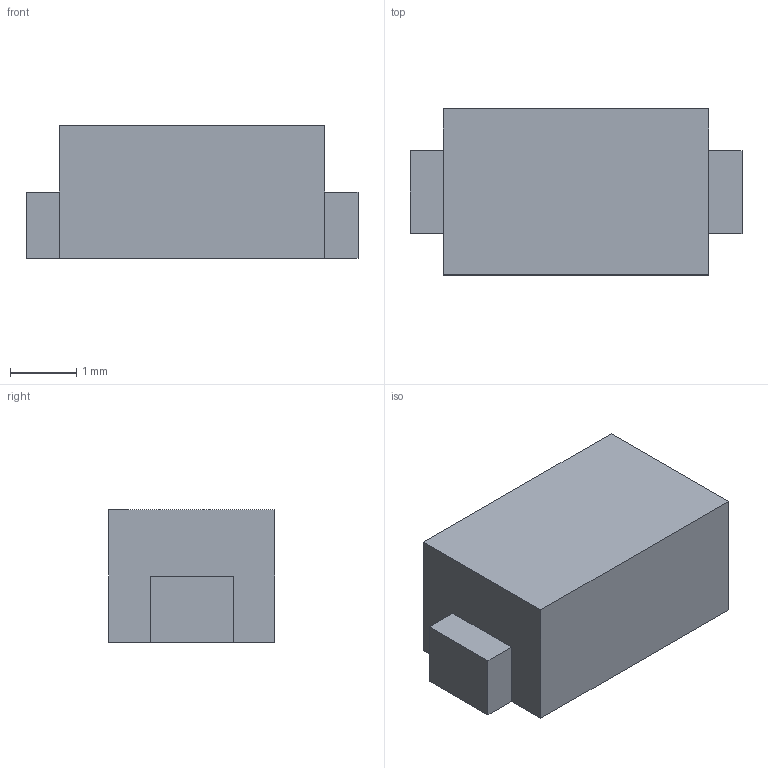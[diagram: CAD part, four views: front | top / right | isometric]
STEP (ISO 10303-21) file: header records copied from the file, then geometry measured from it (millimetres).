
FILE_DESCRIPTION(('FreeCAD Model'),'2;1');
FILE_NAME('Open CASCADE Shape Model','2021-06-28T20:04:22',('Author'),( ''),'Open CASCADE STEP processor 7.5','FreeCAD','Unknown');
FILE_SCHEMA(('AUTOMOTIVE_DESIGN { 1 0 10303 214 1 1 1 1 }'));
Length unit declared in the file: millimetre
Products named in the file (1): Group
Bounding box: 5 x 2.5 x 2 mm (x, y, z)
Volume: 21.2 mm3; surface area: 50.5 mm2
Topology: 1 solids, 1 shells, 18 faces, 44 edges, 28 vertices
Faces by surface type: plane 18
Entity records: 1226 total; most frequent: CARTESIAN_POINT 191, DIRECTION 158, LINE 120, VECTOR 120, ORIENTED_EDGE 88, PCURVE 88, DEFINITIONAL_REPRESENTATION 88, EDGE_CURVE 44
